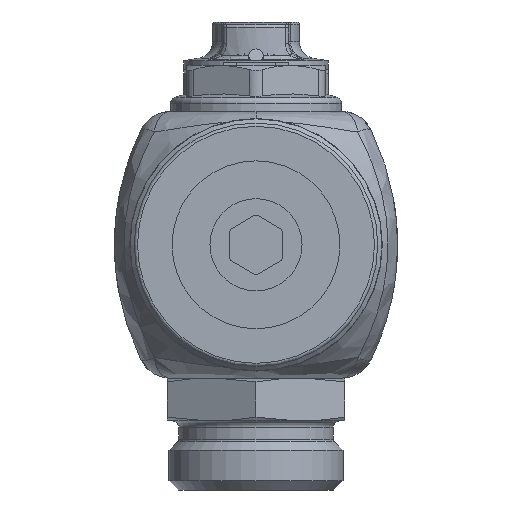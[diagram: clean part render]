
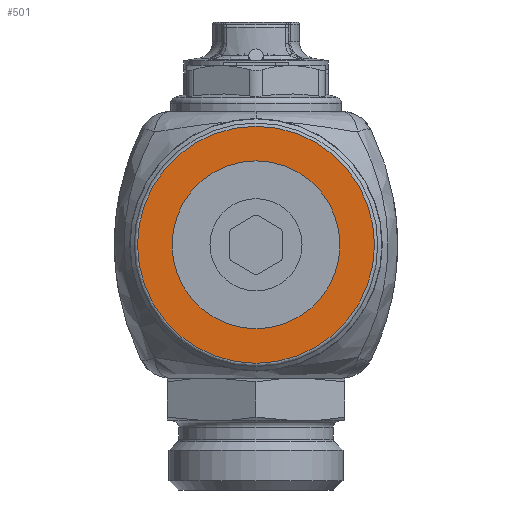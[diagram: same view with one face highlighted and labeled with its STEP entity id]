
A CAD part, front view. The second image highlights one B-rep face of the part: STEP entity #501.
In plain terms, the highlighted planar face has unit normal (0, -1, 0).
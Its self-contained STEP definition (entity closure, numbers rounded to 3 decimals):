
#501=ADVANCED_FACE('',(#14934,#14936),#14938,.F.);
#14934=FACE_BOUND('',#14935,.T.);
#14935=EDGE_LOOP('',(#17726));
#14936=FACE_BOUND('',#14937,.T.);
#14937=EDGE_LOOP('',(#17727));
#14938=PLANE('',#14939);
#14939=AXIS2_PLACEMENT_3D('',#14940,#14941,#14942);
#14940=CARTESIAN_POINT('',(0.,-120.75,0.));
#14941=DIRECTION('',(0.,1.,0.));
#14942=DIRECTION('',(-1.,0.,0.));
#17726=ORIENTED_EDGE('',*,*,#24434,.T.);
#17727=ORIENTED_EDGE('',*,*,#24465,.T.);
#24434=EDGE_CURVE('',#27061,#27061,#27062,.T.);
#24465=EDGE_CURVE('',#27112,#27112,#27113,.F.);
#27061=VERTEX_POINT('',#40374);
#27062=CIRCLE('',#40375,18.);
#27112=VERTEX_POINT('',#40497);
#27113=CIRCLE('',#40498,12.75);
#40374=CARTESIAN_POINT('',(18.,-120.75,0.));
#40375=AXIS2_PLACEMENT_3D('',#40376,#40377,#40378);
#40376=CARTESIAN_POINT('',(0.,-120.75,0.));
#40377=DIRECTION('',(0.,-1.,0.));
#40378=DIRECTION('',(1.,0.,0.));
#40497=CARTESIAN_POINT('',(12.75,-120.75,0.));
#40498=AXIS2_PLACEMENT_3D('',#40499,#40500,#40501);
#40499=CARTESIAN_POINT('',(0.,-120.75,0.));
#40500=DIRECTION('',(0.,-1.,0.));
#40501=DIRECTION('',(1.,0.,0.));
